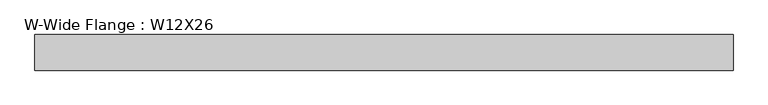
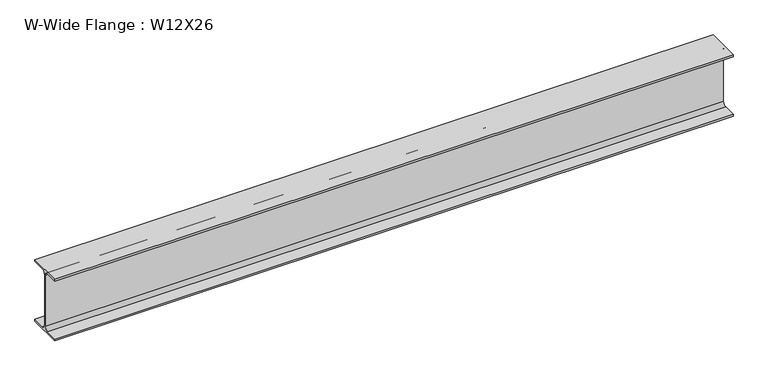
"""IFC4 building model written with IfcOpenShell, lengths in millimetres: beam geometry, W-Wide Flange : W12X26."""

from ifc_helpers import new_model, si_unit, point, frame, frame_2d, origin, place, context, project, spatial, polyline, circle_curve, trimmed, segment, composite_curve, outline, extrude, source, transform, mapped, element, save


def w_wide_flange_w12x26_0a57dafe(model_context):
    return source(origin(), model_context, "Body", "SweptSolid", [
        extrude(outline(composite_curve([segment(polyline([(82.4011719, -145.5539063), (82.4011719, -155.178125), (-82.4011719, -155.178125), (-82.4011719, -145.5539063), (-20.2902344, -145.5539063)]), True, "CONTINUOUS"), segment(trimmed(circle_curve(frame_2d((-20.2902344, -128.190625)), 17.3632812), [point((-20.2902344, -145.5539063))], [point((-2.9269531, -128.190625))], True, "CARTESIAN"), True, "CONTINUOUS"), segment(polyline([(-2.9269531, -128.190625), (-2.9269531, 128.190625)]), True, "CONTINUOUS"), segment(trimmed(circle_curve(frame_2d((-20.2902344, 128.190625)), 17.3632812), [point((-2.9269531, 128.190625))], [point((-20.2902344, 145.5539062))], True, "CARTESIAN"), True, "CONTINUOUS"), segment(polyline([(-20.2902344, 145.5539062), (-82.4011719, 145.5539062), (-82.4011719, 155.178125), (82.4011719, 155.178125), (82.4011719, 145.5539062), (20.2902344, 145.5539062)]), True, "CONTINUOUS"), segment(trimmed(circle_curve(frame_2d((20.2902344, 128.190625)), 17.3632812), [point((20.2902344, 145.5539062))], [point((2.9269531, 128.190625))], True, "CARTESIAN"), True, "CONTINUOUS"), segment(polyline([(2.9269531, 128.190625), (2.9269531, -128.190625)]), True, "CONTINUOUS"), segment(trimmed(circle_curve(frame_2d((20.2902344, -128.190625)), 17.3632812), [point((2.9269531, -128.190625))], [point((20.2902344, -145.5539063))], True, "CARTESIAN"), True, "CONTINUOUS"), segment(polyline([(20.2902344, -145.5539063), (82.4011719, -145.5539063)]), True, "CONTINUOUS")], self_intersect=False)), frame((-1720.8826102, 0.0, 0.0), z_axis=(1.0, 0.0, 0.0), x_axis=(0.0, 1.0, 0.0)), (0.0, 0.0, 1.0), 3232.1826102),
    ])


if __name__ == "__main__":
    model = new_model("IFC4")
    model_context = context("Model", 3, world=origin())
    ifc_project = project(units=[si_unit("LENGTHUNIT", "METRE", prefix="MILLI")], contexts=[model_context])
    site = spatial("IfcSite", under=ifc_project)
    building = spatial("IfcBuilding", under=site)
    placement = place(None, origin())
    w_wide_flange_w12x26_shape = w_wide_flange_w12x26_0a57dafe(model_context)
    element("IfcBeam", 1, ObjectType="W-Wide Flange : W12X26", at=placement, inside=building, context=model_context, shape_type="MappedRepresentation", body=[
        mapped(w_wide_flange_w12x26_shape, transform((0.0, 0.0, 0.0), x_axis=(1.0, 0.0, 0.0), y_axis=(0.0, 1.0, 0.0), z_axis=(0.0, 0.0, 1.0))),
    ])
    save(model, "model.ifc")
